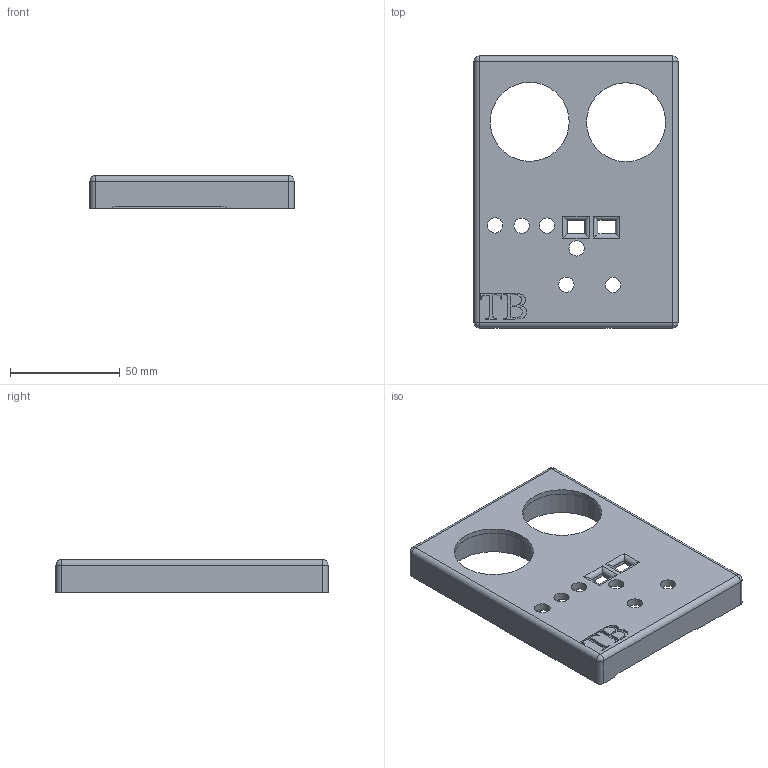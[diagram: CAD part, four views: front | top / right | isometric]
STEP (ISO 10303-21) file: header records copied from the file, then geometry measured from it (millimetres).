
FILE_DESCRIPTION(/* description */ (''),/* implementation_level */ '2;1');
FILE_NAME(/* name */ 'C:/Users/Zach/Desktop/Elly Enclosure/Top of Talkbox Enclosure.step',/* time_stamp */ '2022-04-11T18:16:21-06:00',/* author */ (''),/* organization */ (''),/* preprocessor_version */ 'ST-DEVELOPER v18.1',/* originating_system */ 'Autodesk Translation Framework v10.14.0.1471',/* authorisation */ '');
FILE_SCHEMA (('AUTOMOTIVE_DESIGN { 1 0 10303 214 3 1 1 }'));
Length unit declared in the file: millimetre
Products named in the file (2): Talkbox Enclosure; Case
Assembly tree (1 placements, depth 2):
  Talkbox Enclosure
    Case
Bounding box: 93 x 124 x 15 mm (x, y, z)
Volume: 57864.9 mm3; surface area: 33548.9 mm2
Topology: 1 solids, 1 shells, 154 faces, 416 edges, 270 vertices
Faces by surface type: plane 75, bspline 40, cylinder 34, sphere 4, torus 1
Full cylindrical faces by diameter (mm): 7 x6, 36 x2, 42 x2
Entity records: 5270 total; most frequent: CARTESIAN_POINT 1523, ORIENTED_EDGE 832, DIRECTION 635, EDGE_CURVE 416, LINE 271, VECTOR 271, VERTEX_POINT 270, EDGE_LOOP 184
